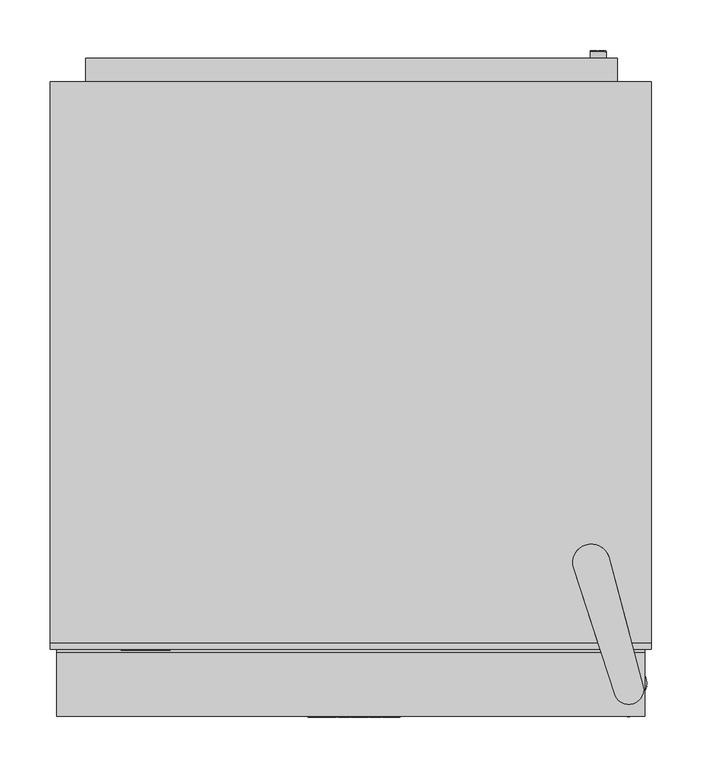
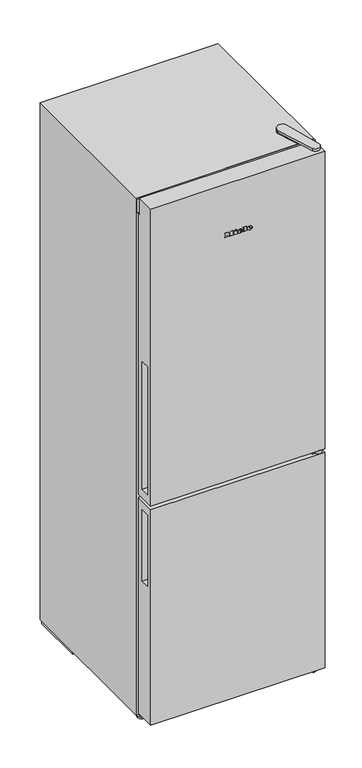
"""IFC4 building model written with IfcOpenShell, lengths in millimetres: proxy geometry, 11980390_EU1_KF4372CD_EL : 38437231_EU1_11980390_KF4372CD_EL."""

from ifc_helpers import new_model, si_unit, point, frame, frame_2d, origin, origin_with_axes, place, context, project, spatial, polyline, circle_curve, ellipse_curve, trimmed, segment, composite_curve, outline, extrude, faceted_brep, source, transform, mapped, element, save
from ifc_brep_helpers import plane_surface, cylinder_surface, revolved_surface, extruded_surface, advanced_brep


def specialty_equipment_6a8d7af3(model_context):
    return source(origin(), model_context, "Body", "SolidModel", [
        advanced_brep(
        [(38.73, -654.0, 1668.515), (38.73, -654.0, 1670.03), (48.765, -654.0, 1670.03), (31.305, -654.0, 1670.03), (35.43, -654.0, 1664.96), (48.51, -654.0, 1668.515), (43.98, -654.0, 1668.515), (40.41, -654.0, 1666.835), (38.73, -654.0, 1671.95), (38.73, -654.0, 1673.585), (41.295, -654.0, 1673.585), (41.295, -654.0, 1671.95), (38.73, -653.0, 1668.515), (40.41, -653.0, 1666.835), (43.98, -653.0, 1668.515), (48.51, -653.0, 1668.515), (35.43, -653.0, 1664.96), (31.305, -653.0, 1670.03), (48.765, -653.0, 1670.03), (38.73, -653.0, 1670.03), (38.73, -653.0, 1671.95), (41.295, -653.0, 1671.95), (41.295, -653.0, 1673.585), (38.73, -653.0, 1673.585)],
        [
            (0, 1),
            (1, 2),
            (2, 3, ellipse_curve(frame((40.035, -654.0, 1670.03), z_axis=(0.0, -1.0, 0.0), x_axis=(-1.0, 0.0, 0.0)), 8.73, 7.215)),
            (3, 4, circle_curve(frame((37.1100818, -654.0, 1670.54), z_axis=(0.0, -1.0, 0.0), x_axis=(0.0, 0.0, -1.0)), 5.8274415)),
            (4, 5, circle_curve(frame((39.860238, -654.0, 1674.5), z_axis=(0.0, -1.0, 0.0), x_axis=(0.0, 0.0, -1.0)), 10.5184889)),
            (5, 6),
            (6, 7, circle_curve(frame((41.1432353, -654.0, 1669.91), z_axis=(0.0, 1.0, 0.0), x_axis=(0.0, 0.0, -1.0)), 3.1612116)),
            (7, 0, circle_curve(frame((40.41, -654.0, 1668.515), z_axis=(0.0, 1.0, 0.0), x_axis=(0.0, 0.0, -1.0)), 1.68)),
            (8, 9),
            (9, 10, circle_curve(frame((40.0125, -654.0, 1673.585), z_axis=(0.0, 1.0, 0.0), x_axis=(0.0, 0.0, -1.0)), 1.2825)),
            (10, 11),
            (11, 8),
            (12, 13, circle_curve(frame((40.41, -653.0, 1668.515), z_axis=(0.0, -1.0, 0.0), x_axis=(0.0, 0.0, -1.0)), 1.68)),
            (13, 14, circle_curve(frame((41.1432353, -653.0, 1669.91), z_axis=(0.0, -1.0, 0.0), x_axis=(0.0, 0.0, -1.0)), 3.1612116)),
            (14, 15),
            (15, 16, circle_curve(frame((39.860238, -653.0, 1674.5), z_axis=(0.0, 1.0, 0.0), x_axis=(0.0, 0.0, -1.0)), 10.5184889)),
            (16, 17, circle_curve(frame((37.1100818, -653.0, 1670.54), z_axis=(0.0, 1.0, 0.0), x_axis=(0.0, 0.0, -1.0)), 5.8274415)),
            (17, 18, ellipse_curve(frame((40.035, -653.0, 1670.03), z_axis=(0.0, 1.0, 0.0), x_axis=(-1.0, 0.0, 0.0)), 8.73, 7.215)),
            (18, 19),
            (19, 12),
            (20, 21),
            (21, 22),
            (22, 23, circle_curve(frame((40.0125, -653.0, 1673.585), z_axis=(0.0, -1.0, 0.0), x_axis=(0.0, 0.0, -1.0)), 1.2825)),
            (23, 20),
            (0, 12),
            (19, 1),
            (18, 2),
            (5, 15),
            (14, 6),
            (17, 3),
            (13, 7),
            (16, 4),
            (8, 20),
            (23, 9),
            (22, 10),
            (21, 11),
        ],
        [
            plane_surface(frame((38.73, -654.0, 1670.03), z_axis=(0.0, -1.0, 0.0), x_axis=(0.0, 0.0, 1.0))),
            plane_surface(frame((38.73, -653.0, 1670.03), z_axis=(0.0, 1.0, 0.0), x_axis=(0.0, 0.0, -1.0))),
            plane_surface(frame((38.73, -654.0, 1668.515), z_axis=(1.0, 0.0, 0.0), x_axis=(0.0, 1.0, 0.0))),
            plane_surface(frame((38.73, -654.0, 1670.03), z_axis=(0.0, 0.0, -1.0), x_axis=(0.0, 1.0, 0.0))),
            plane_surface(frame((48.51, -654.0, 1668.515), z_axis=(0.0, 0.0, 1.0), x_axis=(0.0, 1.0, 0.0))),
            extruded_surface(trimmed(ellipse_curve(frame((40.035, -652.0, 1670.03), z_axis=(0.0, -1.0, 0.0), x_axis=(-1.0, 0.0, 0.0)), 8.73, 7.215), [point((48.765, -652.0, 1670.03))], [point((31.305, -652.0, 1670.03))], True, "CARTESIAN"), (0.0, -1.0, 0.0), 1.0),
            revolved_surface(polyline([(41.1432353, -653.0, 1666.7487884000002), (41.1432353, -654.0, 1666.7487884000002)]), (41.1432353, -653.0, 1669.91), (0.0, 1.0, 0.0)),
            revolved_surface(polyline([(40.41, -653.0, 1666.835), (40.41, -654.0, 1666.835)]), (40.41, -653.0, 1668.515), (0.0, 1.0, 0.0)),
            cylinder_surface(frame((37.1100818, -653.0, 1670.54), z_axis=(0.0, -1.0, 0.0), x_axis=(0.0, 0.0, -1.0)), 5.8274415),
            cylinder_surface(frame((39.860238, -653.0, 1674.5), z_axis=(0.0, -1.0, 0.0), x_axis=(0.0, 0.0, -1.0)), 10.5184889),
            plane_surface(frame((38.73, -654.0, 1671.95), z_axis=(1.0, 0.0, 0.0), x_axis=(0.0, 1.0, 0.0))),
            revolved_surface(polyline([(40.0125, -653.0, 1672.3025), (40.0125, -654.0, 1672.3025)]), (40.0125, -653.0, 1673.585), (0.0, 1.0, 0.0)),
            plane_surface(frame((41.295, -654.0, 1673.585), z_axis=(-1.0, 0.0, 0.0), x_axis=(0.0, 1.0, 0.0))),
            plane_surface(frame((41.295, -654.0, 1671.95), z_axis=(0.0, 0.0, 1.0), x_axis=(0.0, 1.0, 0.0))),
        ],
        [
            (0, [[1, 2, 3, 4, 5, 6, 7, 8], [9, 10, 11, 12]]),
            (1, [[13, 14, 15, 16, 17, 18, 19, 20], [21, 22, 23, 24]]),
            (2, [[-1, 25, -20, 26]]),
            (3, [[-2, -26, -19, 27]]),
            (4, [[-6, 28, -15, 29]]),
            (5, [[-3, -27, -18, 30]]),
            (6, [[-7, -29, -14, 31]]),
            (7, [[-8, -31, -13, -25]]),
            (8, [[-4, -30, -17, 32]]),
            (9, [[-5, -32, -16, -28]]),
            (10, [[-9, 33, -24, 34]]),
            (11, [[-10, -34, -23, 35]]),
            (12, [[-11, -35, -22, 36]]),
            (13, [[-12, -36, -21, -33]]),
        ],
    ),
        advanced_brep(
        [(7.425, -654.0, 1668.515), (7.425, -654.0, 1670.03), (17.46, -654.0, 1670.03), (0.0, -654.0, 1670.03), (4.125, -654.0, 1664.96), (17.205, -654.0, 1668.515), (12.675, -654.0, 1668.515), (9.105, -654.0, 1666.835), (7.425, -654.0, 1671.95), (7.425, -654.0, 1673.585), (9.99, -654.0, 1673.585), (9.99, -654.0, 1671.95), (7.425, -653.0, 1668.515), (9.105, -653.0, 1666.835), (12.675, -653.0, 1668.515), (17.205, -653.0, 1668.515), (4.125, -653.0, 1664.96), (0.0, -653.0, 1670.03), (17.46, -653.0, 1670.03), (7.425, -653.0, 1670.03), (7.425, -653.0, 1671.95), (9.99, -653.0, 1671.95), (9.99, -653.0, 1673.585), (7.425, -653.0, 1673.585)],
        [
            (0, 1),
            (1, 2),
            (2, 3, ellipse_curve(frame((8.73, -654.0, 1670.03), z_axis=(0.0, -1.0, 0.0), x_axis=(-1.0, 0.0, 0.0)), 8.73, 7.215)),
            (3, 4, circle_curve(frame((5.8050818, -654.0, 1670.54), z_axis=(0.0, -1.0, 0.0), x_axis=(0.0, 0.0, -1.0)), 5.8274415)),
            (4, 5, circle_curve(frame((8.555238, -654.0, 1674.5), z_axis=(0.0, -1.0, 0.0), x_axis=(0.0, 0.0, -1.0)), 10.5184889)),
            (5, 6),
            (6, 7, circle_curve(frame((9.8382353, -654.0, 1669.91), z_axis=(0.0, 1.0, 0.0), x_axis=(0.0, 0.0, -1.0)), 3.1612116)),
            (7, 0, circle_curve(frame((9.105, -654.0, 1668.515), z_axis=(0.0, 1.0, 0.0), x_axis=(0.0, 0.0, -1.0)), 1.68)),
            (8, 9),
            (9, 10, circle_curve(frame((8.7075, -654.0, 1673.585), z_axis=(0.0, 1.0, 0.0), x_axis=(0.0, 0.0, -1.0)), 1.2825)),
            (10, 11),
            (11, 8),
            (12, 13, circle_curve(frame((9.105, -653.0, 1668.515), z_axis=(0.0, -1.0, 0.0), x_axis=(0.0, 0.0, -1.0)), 1.68)),
            (13, 14, circle_curve(frame((9.8382353, -653.0, 1669.91), z_axis=(0.0, -1.0, 0.0), x_axis=(0.0, 0.0, -1.0)), 3.1612116)),
            (14, 15),
            (15, 16, circle_curve(frame((8.555238, -653.0, 1674.5), z_axis=(0.0, 1.0, 0.0), x_axis=(0.0, 0.0, -1.0)), 10.5184889)),
            (16, 17, circle_curve(frame((5.8050818, -653.0, 1670.54), z_axis=(0.0, 1.0, 0.0), x_axis=(0.0, 0.0, -1.0)), 5.8274415)),
            (17, 18, ellipse_curve(frame((8.73, -653.0, 1670.03), z_axis=(0.0, 1.0, 0.0), x_axis=(-1.0, 0.0, 0.0)), 8.73, 7.215)),
            (18, 19),
            (19, 12),
            (20, 21),
            (21, 22),
            (22, 23, circle_curve(frame((8.7075, -653.0, 1673.585), z_axis=(0.0, -1.0, 0.0), x_axis=(0.0, 0.0, -1.0)), 1.2825)),
            (23, 20),
            (0, 12),
            (19, 1),
            (18, 2),
            (5, 15),
            (14, 6),
            (17, 3),
            (13, 7),
            (16, 4),
            (8, 20),
            (23, 9),
            (22, 10),
            (21, 11),
        ],
        [
            plane_surface(frame((7.425, -654.0, 1670.03), z_axis=(0.0, -1.0, 0.0), x_axis=(0.0, 0.0, 1.0))),
            plane_surface(frame((7.425, -653.0, 1670.03), z_axis=(0.0, 1.0, 0.0), x_axis=(0.0, 0.0, -1.0))),
            plane_surface(frame((7.425, -654.0, 1668.515), z_axis=(1.0, 0.0, 0.0), x_axis=(0.0, 1.0, 0.0))),
            plane_surface(frame((7.425, -654.0, 1670.03), z_axis=(0.0, 0.0, -1.0), x_axis=(0.0, 1.0, 0.0))),
            plane_surface(frame((17.205, -654.0, 1668.515), z_axis=(0.0, 0.0, 1.0), x_axis=(0.0, 1.0, 0.0))),
            extruded_surface(trimmed(ellipse_curve(frame((8.73, -652.0, 1670.03), z_axis=(0.0, -1.0, 0.0), x_axis=(-1.0, 0.0, 0.0)), 8.73, 7.215), [point((17.46, -652.0, 1670.03))], [point((0.0, -652.0, 1670.03))], True, "CARTESIAN"), (0.0, -1.0, 0.0), 1.0),
            revolved_surface(polyline([(9.8382353, -653.0, 1666.7487884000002), (9.8382353, -654.0, 1666.7487884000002)]), (9.8382353, -653.0, 1669.91), (0.0, 1.0, 0.0)),
            revolved_surface(polyline([(9.105, -653.0, 1666.835), (9.105, -654.0, 1666.835)]), (9.105, -653.0, 1668.515), (0.0, 1.0, 0.0)),
            cylinder_surface(frame((5.8050818, -653.0, 1670.54), z_axis=(0.0, -1.0, 0.0), x_axis=(0.0, 0.0, -1.0)), 5.8274415),
            cylinder_surface(frame((8.555238, -653.0, 1674.5), z_axis=(0.0, -1.0, 0.0), x_axis=(0.0, 0.0, -1.0)), 10.5184889),
            plane_surface(frame((7.425, -654.0, 1671.95), z_axis=(1.0, 0.0, 0.0), x_axis=(0.0, 1.0, 0.0))),
            revolved_surface(polyline([(8.7075, -653.0, 1672.3025), (8.7075, -654.0, 1672.3025)]), (8.7075, -653.0, 1673.585), (0.0, 1.0, 0.0)),
            plane_surface(frame((9.99, -654.0, 1673.585), z_axis=(-1.0, 0.0, 0.0), x_axis=(0.0, 1.0, 0.0))),
            plane_surface(frame((9.99, -654.0, 1671.95), z_axis=(0.0, 0.0, 1.0), x_axis=(0.0, 1.0, 0.0))),
        ],
        [
            (0, [[1, 2, 3, 4, 5, 6, 7, 8], [9, 10, 11, 12]]),
            (1, [[13, 14, 15, 16, 17, 18, 19, 20], [21, 22, 23, 24]]),
            (2, [[-1, 25, -20, 26]]),
            (3, [[-2, -26, -19, 27]]),
            (4, [[-6, 28, -15, 29]]),
            (5, [[-3, -27, -18, 30]]),
            (6, [[-7, -29, -14, 31]]),
            (7, [[-8, -31, -13, -25]]),
            (8, [[-4, -30, -17, 32]]),
            (9, [[-5, -32, -16, -28]]),
            (10, [[-9, 33, -24, 34]]),
            (11, [[-10, -34, -23, 35]]),
            (12, [[-11, -35, -22, 36]]),
            (13, [[-12, -36, -21, -33]]),
        ],
    ),
        extrude(outline(polyline([(1679.075, -8.97), (1676.645, -7.83), (1679.015, -2.745), (1681.445, -3.87), (1679.075, -8.97)])), frame((0.0, -654.0, 0.0), z_axis=(0.0, 1.0, 0.0), x_axis=(0.0, 0.0, 1.0)), (0.0, 0.0, 1.0), 1.0),
        extrude(outline(polyline([(1676.315, -12.675), (1673.63, -12.675), (1673.63, -10.89), (1667.48, -10.89), (1667.48, -12.675), (1664.96, -12.675), (1664.96, -0.84), (1667.48, -0.84), (1667.48, -2.58), (1676.315, -2.58), (1676.315, -12.675)])), frame((0.0, -654.0, 0.0), z_axis=(0.0, 1.0, 0.0), x_axis=(0.0, 0.0, 1.0)), (0.0, 0.0, 1.0), 1.0),
        extrude(outline(polyline([(1677.515, 18.3), (1677.515, 20.1), (1667.48, 20.1), (1667.48, 18.3), (1664.96, 18.3), (1664.96, 30.465), (1667.48, 30.465), (1667.48, 28.62), (1679.96, 28.62), (1679.96, 18.3), (1677.515, 18.3)])), frame((0.0, -654.0, 0.0), z_axis=(0.0, 1.0, 0.0), x_axis=(0.0, 0.0, 1.0)), (0.0, 0.0, 1.0), 1.0),
        extrude(outline(polyline([(1677.515, -42.57), (1677.515, -40.755), (1667.48, -40.755), (1667.48, -42.57), (1664.96, -42.57), (1664.96, -35.97), (1667.48, -35.97), (1667.48, -37.77), (1673.8161247, -37.77), (1664.96, -31.065), (1674.1502223, -24.33), (1667.48, -24.33), (1667.48, -26.175), (1664.96, -26.175), (1664.96, -14.205), (1667.48, -14.205), (1667.48, -16.11), (1677.515, -16.11), (1677.515, -14.205), (1679.96, -14.205), (1679.96, -23.34), (1674.335, -27.72), (1679.96, -32.115), (1679.96, -42.57), (1677.515, -42.57)])), frame((0.0, -654.0, 0.0), z_axis=(0.0, 1.0, 0.0), x_axis=(0.0, 0.0, 1.0)), (0.0, 0.0, 1.0), 1.0),
        faceted_brep([(298.5, -23.0, 1850.0), (-298.5, -23.0, 1850.0), (-298.5, -580.0, 1850.0), (298.5, -580.0, 1850.0), (298.5, -23.0, 19.0), (298.5, -580.0, 19.0), (-298.5, -580.0, 19.0), (-298.5, -23.0, 19.0), (-234.0, -580.0, 1766.0), (234.0, -580.0, 1766.0), (234.0, -580.0, 827.0), (-234.0, -580.0, 827.0), (-234.0, -580.0, 733.0), (234.0, -580.0, 733.0), (234.0, -580.0, 109.0), (-234.0, -580.0, 109.0), (-234.0, -63.0, 1766.0), (234.0, -63.0, 1766.0), (234.0, -63.0, 827.0), (-234.0, -63.0, 827.0), (-234.0, -63.0, 733.0), (234.0, -63.0, 733.0), (234.0, -63.0, 109.0), (-234.0, -63.0, 109.0)], [[[0, 1, 2, 3]], [[4, 5, 6, 7]], [[1, 0, 4, 7]], [[2, 1, 7, 6]], [[3, 2, 6, 5], [8, 9, 10, 11], [12, 13, 14, 15]], [[0, 3, 5, 4]], [[16, 17, 9, 8]], [[18, 19, 11, 10]], [[17, 16, 19, 18]], [[19, 16, 8, 11]], [[17, 18, 10, 9]], [[20, 21, 13, 12]], [[22, 23, 15, 14]], [[21, 20, 23, 22]], [[23, 20, 12, 15]], [[21, 22, 14, 13]]]),
        extrude(outline(composite_curve([segment(polyline([(-56.420729, 6.1484915), (-39.9901847, 6.1484915)]), True, "CONTINUOUS"), segment(trimmed(circle_curve(frame_2d((-48.2054569, 8.6902384)), 8.5994869), [point((-39.9901847, 6.1484915))], [point((-56.420729, 6.1484915))], False, "CARTESIAN"), True, "CONTINUOUS")], self_intersect=False)), frame((264.4820102, 0.0, 0.0), z_axis=(1.0, 0.0, 0.0), x_axis=(0.0, 1.0, 0.0)), (0.0, 0.0, 1.0), 17.0656722),
        extrude(outline(composite_curve([segment(trimmed(circle_curve(frame_2d((-274.5, -569.6105025)), 7.4374754), [point((-281.9374754, -569.6105025))], [point((-267.0625246, -569.6105025))], False, "CARTESIAN"), True, "CONTINUOUS"), segment(trimmed(circle_curve(frame_2d((-274.5, -569.6105025)), 7.4374754), [point((-267.0625246, -569.6105025))], [point((-281.9374754, -569.6105025))], False, "CARTESIAN"), True, "CONTINUOUS")], self_intersect=False)), frame((0.0, 0.0, 6.1484915), z_axis=(0.0, 0.0, 1.0), x_axis=(1.0, 0.0, 0.0)), (0.0, 0.0, 1.0), 12.8515085),
        extrude(outline(composite_curve([segment(trimmed(circle_curve(frame_2d((-274.5, -569.7060517)), 12.797253), [point((-287.297253, -569.7060517))], [point((-261.702747, -569.7060517))], False, "CARTESIAN"), True, "CONTINUOUS"), segment(trimmed(circle_curve(frame_2d((-274.5, -569.7060517)), 12.797253), [point((-261.702747, -569.7060517))], [point((-287.297253, -569.7060517))], False, "CARTESIAN"), True, "CONTINUOUS")], self_intersect=False)), origin_with_axes(), (0.0, 0.0, 1.0), 6.1484915),
        extrude(outline(polyline([(298.5, -586.4996489), (-298.5, -586.4996489), (-298.5, -580.0), (298.5, -580.0), (298.5, -586.4996489)])), frame((0.0, 0.0, 1801.2229618), z_axis=(0.0, 0.0, 1.0), x_axis=(1.0, 0.0, 0.0)), (0.0, 0.0, 1.0), 48.7770382),
        extrude(outline(polyline([(277.7112582, -200.120515), (251.0987637, -200.120515), (251.0987637, -87.2190022), (277.7112582, -87.2190022), (277.7112582, -200.120515)])), origin_with_axes(), (0.0, 0.0, 1.0), 6.1484915),
        extrude(outline(polyline([(251.0987637, -26.8205259), (291.0987637, -26.8205259), (291.0987637, -206.6206354), (251.0987637, -206.6206354), (251.0987637, -26.8205259)])), frame((0.0, 0.0, 6.1484915), z_axis=(0.0, 0.0, 1.0), x_axis=(1.0, 0.0, 0.0)), (0.0, 0.0, 1.0), 12.8515085),
        extrude(outline(composite_curve([segment(polyline([(-56.420729, 6.1484915), (-39.9901847, 6.1484915)]), True, "CONTINUOUS"), segment(trimmed(circle_curve(frame_2d((-48.2054569, 8.6902384)), 8.5994869), [point((-39.9901847, 6.1484915))], [point((-56.420729, 6.1484915))], False, "CARTESIAN"), True, "CONTINUOUS")], self_intersect=False)), frame((-281.5476824, 0.0, 0.0), z_axis=(1.0, 0.0, 0.0), x_axis=(0.0, 1.0, 0.0)), (0.0, 0.0, 1.0), 17.0656722),
        extrude(outline(polyline([(-277.7112582, -200.120515), (-277.7112582, -87.2190022), (-252.7112582, -87.2190022), (-252.7112582, -200.120515), (-277.7112582, -200.120515)])), origin_with_axes(), (0.0, 0.0, 1.0), 6.1484915),
        extrude(outline(polyline([(-252.7112582, -26.8205259), (-252.7112582, -206.6206354), (-295.0984336, -206.6206354), (-295.0984336, -26.8205259), (-252.7112582, -26.8205259)])), frame((0.0, 0.0, 6.1484915), z_axis=(0.0, 0.0, 1.0), x_axis=(1.0, 0.0, 0.0)), (0.0, 0.0, 1.0), 12.8515085),
        extrude(outline(polyline([(244.9015664, -32.3201), (244.9015664, -206.6206354), (-245.4999985, -206.6206354), (-245.4999985, -32.3201), (244.9015664, -32.3201)])), frame((0.0, 0.0, 6.1484915), z_axis=(0.0, 0.0, 1.0), x_axis=(1.0, 0.0, 0.0)), (0.0, 0.0, 1.0), 12.8515085),
        extrude(outline(polyline([(264.8461624, -23.0), (-263.5, -23.0), (-263.5, 0.0), (264.8461624, 0.0), (264.8461624, -23.0)])), frame((0.0, 0.0, 231.5932438), z_axis=(0.0, 0.0, 1.0), x_axis=(1.0, 0.0, 0.0)), (0.0, 0.0, 1.0), 1494.4067562),
        extrude(outline(polyline([(168.0, 253.3772603), (178.045631, 253.3772603), (178.045631, 246.156963), (176.7899271, 246.156963), (176.7899271, 252.1215564), (173.8076304, 252.1215564), (173.8076304, 246.470889), (172.5519266, 246.470889), (172.5519266, 252.1215564), (169.2557039, 252.1215564), (169.2557039, 246.0), (168.0, 246.0), (168.0, 253.3772603)])), frame((0.0, 7.0, 0.0), z_axis=(0.0, 1.0, 0.0), x_axis=(0.0, 0.0, 1.0)), (0.0, 0.0, 1.0), 1.0),
        extrude(outline(polyline([(168.0, 244.1164442), (178.045631, 244.1164442), (178.045631, 242.8607403), (169.2557039, 242.8607403), (169.2557039, 237.8379248), (168.0, 237.8379248), (168.0, 244.1164442)])), frame((0.0, 7.0, 0.0), z_axis=(0.0, 1.0, 0.0), x_axis=(0.0, 0.0, 1.0)), (0.0, 0.0, 1.0), 1.0),
        extrude(outline(composite_curve([segment(trimmed(circle_curve(frame_2d((173.0, 246.0)), 8.0), [point((173.0, 238.0))], [point((173.0, 254.0))], False, "CARTESIAN"), True, "CONTINUOUS"), segment(trimmed(circle_curve(frame_2d((173.0, 246.0)), 8.0), [point((173.0, 254.0))], [point((173.0, 238.0))], False, "CARTESIAN"), True, "CONTINUOUS")], self_intersect=False)), frame((0.0, -23.0, 0.0), z_axis=(0.0, 1.0, 0.0), x_axis=(0.0, 0.0, 1.0)), (0.0, 0.0, 1.0), 30.0),
        extrude(outline(polyline([(255.1369404, -644.0500518), (255.1369404, -589.0), (292.0, -589.0), (292.0, -629.2312633), (263.6572781, -629.2312633), (263.6572781, -644.0500518), (255.1369404, -644.0500518)])), frame((0.0, 0.0, 788.0), z_axis=(0.0, 0.0, 1.0), x_axis=(1.0, 0.0, 0.0)), (0.0, 0.0, 1.0), 11.7998428),
        extrude(outline(composite_curve([segment(trimmed(circle_curve(frame_2d((276.0, -641.3479469)), 12.0), [point((264.0, -641.3479469))], [point((288.0, -641.3479469))], False, "CARTESIAN"), True, "CONTINUOUS"), segment(trimmed(circle_curve(frame_2d((276.0, -641.3479469)), 12.0), [point((288.0, -641.3479469))], [point((264.0, -641.3479469))], False, "CARTESIAN"), True, "CONTINUOUS")], self_intersect=False)), frame((0.0, 0.0, 788.0), z_axis=(0.0, 0.0, 1.0), x_axis=(1.0, 0.0, 0.0)), (0.0, 0.0, 1.0), 11.7998428),
        faceted_brep([(292.0, -653.0, 788.0), (-292.0, -653.0, 788.0), (-292.0, -653.0, 24.0), (292.0, -653.0, 24.0), (292.0, -580.0, 788.0), (292.0, -580.0, 24.0), (-292.0, -580.0, 24.0), (-292.0, -580.0, 788.0), (-292.0, -635.0, 758.0), (-292.0, -635.0, 506.0121804), (-292.0, -604.4897883, 506.0121804), (-292.0, -604.4897883, 758.0), (-268.2740132, -635.0, 758.0), (-268.2740132, -604.4897883, 758.0), (-268.2740132, -604.4897883, 506.0121804), (-268.2740132, -635.0, 506.0121804)], [[[0, 1, 2, 3]], [[4, 5, 6, 7]], [[1, 0, 4, 7]], [[2, 1, 7, 6], [8, 9, 10, 11]], [[3, 2, 6, 5]], [[0, 3, 5, 4]], [[12, 13, 14, 15]], [[12, 15, 9, 8]], [[15, 14, 10, 9]], [[14, 13, 11, 10]], [[13, 12, 8, 11]]]),
        extrude(outline(composite_curve([segment(trimmed(circle_curve(frame_2d((255.0, -586.0)), 13.0), [point((242.0, -586.0))], [point((268.0, -586.0))], False, "CARTESIAN"), True, "CONTINUOUS"), segment(trimmed(circle_curve(frame_2d((255.0, -586.0)), 13.0), [point((268.0, -586.0))], [point((242.0, -586.0))], False, "CARTESIAN"), True, "CONTINUOUS")], self_intersect=False)), origin_with_axes(), (0.0, 0.0, 1.0), 6.9998158),
        extrude(outline(composite_curve([segment(trimmed(circle_curve(frame_2d((276.9946442, -619.9124361)), 17.0), [point((259.9946442, -619.9124361))], [point((293.9946442, -619.9124361))], False, "CARTESIAN"), True, "CONTINUOUS"), segment(trimmed(circle_curve(frame_2d((276.9946442, -619.9124361)), 17.0), [point((293.9946442, -619.9124361))], [point((259.9946442, -619.9124361))], False, "CARTESIAN"), True, "CONTINUOUS")], self_intersect=False)), frame((0.0, 0.0, 18.8964761), z_axis=(0.0, 0.0, 1.0), x_axis=(1.0, 0.0, 0.0)), (0.0, 0.0, 1.0), 5.1035239),
        extrude(outline(polyline([(294.0677389, -623.5579978), (264.4272141, -637.8371511), (205.1568838, -531.0918017), (240.1598028, -511.6564392), (294.0677389, -623.5579978)])), frame((0.0, 0.0, 6.9998158), z_axis=(0.0, 0.0, 1.0), x_axis=(1.0, 0.0, 0.0)), (0.0, 0.0, 1.0), 11.8966603),
        extrude(outline(composite_curve([segment(polyline([(276.4367298, -571.0430426), (245.1616399, -579.2864892), (221.3582255, -506.2033511)]), True, "CONTINUOUS"), segment(trimmed(circle_curve(frame_2d((238.85062, -500.5060216)), 18.3968321), [point((221.3582255, -506.2033511))], [point((256.3428386, -494.8081519))], False, "CARTESIAN"), True, "CONTINUOUS"), segment(polyline([(256.3428386, -494.8081519), (276.4367298, -571.0430426)]), True, "CONTINUOUS")], self_intersect=False)), frame((0.0, 0.0, 1849.9998428), z_axis=(0.0, 0.0, 1.0), x_axis=(1.0, 0.0, 0.0)), (0.0, 0.0, 1.0), 2.8),
        extrude(outline(composite_curve([segment(polyline([(262.5128912, -632.5530567), (221.3582255, -506.2033511)]), True, "CONTINUOUS"), segment(trimmed(circle_curve(frame_2d((238.850532, -500.5057515)), 18.3968321), [point((221.3582255, -506.2033511))], [point((256.3428386, -494.8081519))], False, "CARTESIAN"), True, "CONTINUOUS"), segment(polyline([(256.3428386, -494.8081519), (291.0205136, -626.3729512)]), True, "CONTINUOUS"), segment(trimmed(circle_curve(frame_2d((276.0339956, -626.0831703)), 14.9893193), [point((291.0205136, -626.3729512))], [point((262.5128912, -632.5530567))], False, "CARTESIAN"), True, "CONTINUOUS")], self_intersect=False)), frame((0.0, 0.0, 1852.7998428), z_axis=(0.0, 0.0, 1.0), x_axis=(1.0, 0.0, 0.0)), (0.0, 0.0, 1.0), 9.2001572),
        extrude(outline(polyline([(292.0, -589.0), (162.9885295, -589.0), (162.9885295, -580.0), (292.0, -580.0), (292.0, -589.0)])), frame((0.0, 0.0, 788.0), z_axis=(0.0, 0.0, 1.0), x_axis=(1.0, 0.0, 0.0)), (0.0, 0.0, 1.0), 11.7998428),
        faceted_brep([(292.0, -653.0, 1852.7998428), (-292.0, -653.0, 1852.7998428), (-292.0, -653.0, 799.7998428), (292.0, -653.0, 799.7998428), (292.0, -580.0, 799.7998428), (-292.0, -580.0, 799.7998428), (-292.0, -580.0, 1796.7998428), (292.0, -580.0, 1796.7998428), (292.0, -589.8392038, 1852.7998428), (-292.0, -589.8392038, 1852.7998428), (-292.0, -589.8392038, 1796.7998428), (-292.0, -604.4876108, 831.0997411), (-292.0, -604.4876108, 1283.0), (-292.0, -635.0, 1283.0), (-292.0, -635.0, 831.0997411), (292.0, -589.8392038, 1796.7998428), (-268.2740132, -604.4876108, 831.0997411), (-268.2740132, -635.0, 831.0997411), (-268.2740132, -635.0, 1283.0), (-268.2740132, -604.4876108, 1283.0)], [[[0, 1, 2, 3]], [[4, 5, 6, 7]], [[1, 0, 8, 9]], [[2, 1, 9, 10, 6, 5], [11, 12, 13, 14]], [[3, 2, 5, 4]], [[0, 3, 4, 7, 15, 8]], [[15, 10, 9, 8]], [[10, 15, 7, 6]], [[16, 17, 18, 19]], [[16, 19, 12, 11]], [[19, 18, 13, 12]], [[18, 17, 14, 13]], [[17, 16, 11, 14]]]),
        advanced_brep(
        [(-184.64, -587.4996489, 1823.3934838), (-184.64, -587.4996489, 1824.2014838), (-179.288, -587.4996489, 1824.2014838), (-188.6, -587.4996489, 1824.2014838), (-186.4, -587.4996489, 1821.4974838), (-179.424, -587.4996489, 1823.3934838), (-181.84, -587.4996489, 1823.3934838), (-183.744, -587.4996489, 1822.4974838), (-184.64, -587.4996489, 1825.2254838), (-184.64, -587.4996489, 1826.0974838), (-183.272, -587.4996489, 1826.0974838), (-183.272, -587.4996489, 1825.2254838), (-184.64, -586.4996489, 1823.3934838), (-183.744, -586.4996489, 1822.4974838), (-181.84, -586.4996489, 1823.3934838), (-179.424, -586.4996489, 1823.3934838), (-186.4, -586.4996489, 1821.4974838), (-188.6, -586.4996489, 1824.2014838), (-179.288, -586.4996489, 1824.2014838), (-184.64, -586.4996489, 1824.2014838), (-184.64, -586.4996489, 1825.2254838), (-183.272, -586.4996489, 1825.2254838), (-183.272, -586.4996489, 1826.0974838), (-184.64, -586.4996489, 1826.0974838)],
        [
            (0, 1),
            (1, 2),
            (2, 3, ellipse_curve(frame((-183.944, -587.4996489, 1824.2014838), z_axis=(0.0, -1.0, 0.0), x_axis=(-1.0, 0.0, 0.0)), 4.656, 3.848)),
            (3, 4, circle_curve(frame((-185.5039564, -587.4996489, 1824.4734838), z_axis=(0.0, -1.0, 0.0), x_axis=(0.0, 0.0, -1.0)), 3.1079688)),
            (4, 5, circle_curve(frame((-184.0372064, -587.4996489, 1826.5854838), z_axis=(0.0, -1.0, 0.0), x_axis=(0.0, 0.0, -1.0)), 5.6098607)),
            (5, 6),
            (6, 7, circle_curve(frame((-183.3529412, -587.4996489, 1824.1374838), z_axis=(0.0, 1.0, 0.0), x_axis=(0.0, 0.0, -1.0)), 1.6859795)),
            (7, 0, circle_curve(frame((-183.744, -587.4996489, 1823.3934838), z_axis=(0.0, 1.0, 0.0), x_axis=(0.0, 0.0, -1.0)), 0.896)),
            (8, 9),
            (9, 10, circle_curve(frame((-183.956, -587.4996489, 1826.0974838), z_axis=(0.0, 1.0, 0.0), x_axis=(0.0, 0.0, -1.0)), 0.684)),
            (10, 11),
            (11, 8),
            (12, 13, circle_curve(frame((-183.744, -586.4996489, 1823.3934838), z_axis=(0.0, -1.0, 0.0), x_axis=(0.0, 0.0, -1.0)), 0.896)),
            (13, 14, circle_curve(frame((-183.3529412, -586.4996489, 1824.1374838), z_axis=(0.0, -1.0, 0.0), x_axis=(0.0, 0.0, -1.0)), 1.6859795)),
            (14, 15),
            (15, 16, circle_curve(frame((-184.0372064, -586.4996489, 1826.5854838), z_axis=(0.0, 1.0, 0.0), x_axis=(0.0, 0.0, -1.0)), 5.6098607)),
            (16, 17, circle_curve(frame((-185.5039564, -586.4996489, 1824.4734838), z_axis=(0.0, 1.0, 0.0), x_axis=(0.0, 0.0, -1.0)), 3.1079688)),
            (17, 18, ellipse_curve(frame((-183.944, -586.4996489, 1824.2014838), z_axis=(0.0, 1.0, 0.0), x_axis=(-1.0, 0.0, 0.0)), 4.656, 3.848)),
            (18, 19),
            (19, 12),
            (20, 21),
            (21, 22),
            (22, 23, circle_curve(frame((-183.956, -586.4996489, 1826.0974838), z_axis=(0.0, -1.0, 0.0), x_axis=(0.0, 0.0, -1.0)), 0.684)),
            (23, 20),
            (0, 12),
            (19, 1),
            (18, 2),
            (5, 15),
            (14, 6),
            (17, 3),
            (13, 7),
            (16, 4),
            (8, 20),
            (23, 9),
            (22, 10),
            (21, 11),
        ],
        [
            plane_surface(frame((-184.64, -587.4996489, 1824.2014838), z_axis=(0.0, -1.0, 0.0), x_axis=(0.0, 0.0, 1.0))),
            plane_surface(frame((-184.64, -586.4996489, 1824.2014838), z_axis=(0.0, 1.0, 0.0), x_axis=(0.0, 0.0, -1.0))),
            plane_surface(frame((-184.64, -587.4996489, 1823.3934838), z_axis=(1.0, 0.0, 0.0), x_axis=(0.0, 1.0, 0.0))),
            plane_surface(frame((-184.64, -587.4996489, 1824.2014838), z_axis=(0.0, 0.0, -1.0), x_axis=(0.0, 1.0, 0.0))),
            plane_surface(frame((-179.424, -587.4996489, 1823.3934838), z_axis=(0.0, 0.0, 1.0), x_axis=(0.0, 1.0, 0.0))),
            extruded_surface(trimmed(ellipse_curve(frame((-183.944, -585.4996489, 1824.2014838), z_axis=(0.0, -1.0, 0.0), x_axis=(-1.0, 0.0, 0.0)), 4.656, 3.848), [point((-179.288, -585.4996489, 1824.2014838))], [point((-188.6, -585.4996489, 1824.2014838))], True, "CARTESIAN"), (0.0, -1.0, 0.0), 1.0),
            revolved_surface(polyline([(-183.3529412, -586.4996489, 1822.4515043), (-183.3529412, -587.4996489, 1822.4515043)]), (-183.3529412, -586.4996489, 1824.1374838), (0.0, 1.0, 0.0)),
            revolved_surface(polyline([(-183.744, -586.4996489, 1822.4974838), (-183.744, -587.4996489, 1822.4974838)]), (-183.744, -586.4996489, 1823.3934838), (0.0, 1.0, 0.0)),
            cylinder_surface(frame((-185.5039564, -586.4996489, 1824.4734838), z_axis=(0.0, -1.0, 0.0), x_axis=(0.0, 0.0, -1.0)), 3.1079688),
            cylinder_surface(frame((-184.0372064, -586.4996489, 1826.5854838), z_axis=(0.0, -1.0, 0.0), x_axis=(0.0, 0.0, -1.0)), 5.6098607),
            plane_surface(frame((-184.64, -587.4996489, 1825.2254838), z_axis=(1.0, 0.0, 0.0), x_axis=(0.0, 1.0, 0.0))),
            revolved_surface(polyline([(-183.956, -586.4996489, 1825.4134838), (-183.956, -587.4996489, 1825.4134838)]), (-183.956, -586.4996489, 1826.0974838), (0.0, 1.0, 0.0)),
            plane_surface(frame((-183.272, -587.4996489, 1826.0974838), z_axis=(-1.0, 0.0, 0.0), x_axis=(0.0, 1.0, 0.0))),
            plane_surface(frame((-183.272, -587.4996489, 1825.2254838), z_axis=(0.0, 0.0, 1.0), x_axis=(0.0, 1.0, 0.0))),
        ],
        [
            (0, [[1, 2, 3, 4, 5, 6, 7, 8], [9, 10, 11, 12]]),
            (1, [[13, 14, 15, 16, 17, 18, 19, 20], [21, 22, 23, 24]]),
            (2, [[-1, 25, -20, 26]]),
            (3, [[-2, -26, -19, 27]]),
            (4, [[-6, 28, -15, 29]]),
            (5, [[-3, -27, -18, 30]]),
            (6, [[-7, -29, -14, 31]]),
            (7, [[-8, -31, -13, -25]]),
            (8, [[-4, -30, -17, 32]]),
            (9, [[-5, -32, -16, -28]]),
            (10, [[-9, 33, -24, 34]]),
            (11, [[-10, -34, -23, 35]]),
            (12, [[-11, -35, -22, 36]]),
            (13, [[-12, -36, -21, -33]]),
        ],
    ),
        advanced_brep(
        [(-201.336, -587.4996489, 1823.3934838), (-201.336, -587.4996489, 1824.2014838), (-195.984, -587.4996489, 1824.2014838), (-205.296, -587.4996489, 1824.2014838), (-203.096, -587.4996489, 1821.4974838), (-196.12, -587.4996489, 1823.3934838), (-198.536, -587.4996489, 1823.3934838), (-200.44, -587.4996489, 1822.4974838), (-201.336, -587.4996489, 1825.2254838), (-201.336, -587.4996489, 1826.0974838), (-199.968, -587.4996489, 1826.0974838), (-199.968, -587.4996489, 1825.2254838), (-201.336, -586.4996489, 1823.3934838), (-200.44, -586.4996489, 1822.4974838), (-198.536, -586.4996489, 1823.3934838), (-196.12, -586.4996489, 1823.3934838), (-203.096, -586.4996489, 1821.4974838), (-205.296, -586.4996489, 1824.2014838), (-195.984, -586.4996489, 1824.2014838), (-201.336, -586.4996489, 1824.2014838), (-201.336, -586.4996489, 1825.2254838), (-199.968, -586.4996489, 1825.2254838), (-199.968, -586.4996489, 1826.0974838), (-201.336, -586.4996489, 1826.0974838)],
        [
            (0, 1),
            (1, 2),
            (2, 3, ellipse_curve(frame((-200.64, -587.4996489, 1824.2014838), z_axis=(0.0, -1.0, 0.0), x_axis=(-1.0, 0.0, 0.0)), 4.656, 3.848)),
            (3, 4, circle_curve(frame((-202.1999564, -587.4996489, 1824.4734838), z_axis=(0.0, -1.0, 0.0), x_axis=(0.0, 0.0, -1.0)), 3.1079688)),
            (4, 5, circle_curve(frame((-200.7332064, -587.4996489, 1826.5854838), z_axis=(0.0, -1.0, 0.0), x_axis=(0.0, 0.0, -1.0)), 5.6098607)),
            (5, 6),
            (6, 7, circle_curve(frame((-200.0489412, -587.4996489, 1824.1374838), z_axis=(0.0, 1.0, 0.0), x_axis=(0.0, 0.0, -1.0)), 1.6859795)),
            (7, 0, circle_curve(frame((-200.44, -587.4996489, 1823.3934838), z_axis=(0.0, 1.0, 0.0), x_axis=(0.0, 0.0, -1.0)), 0.896)),
            (8, 9),
            (9, 10, circle_curve(frame((-200.652, -587.4996489, 1826.0974838), z_axis=(0.0, 1.0, 0.0), x_axis=(0.0, 0.0, -1.0)), 0.684)),
            (10, 11),
            (11, 8),
            (12, 13, circle_curve(frame((-200.44, -586.4996489, 1823.3934838), z_axis=(0.0, -1.0, 0.0), x_axis=(0.0, 0.0, -1.0)), 0.896)),
            (13, 14, circle_curve(frame((-200.0489412, -586.4996489, 1824.1374838), z_axis=(0.0, -1.0, 0.0), x_axis=(0.0, 0.0, -1.0)), 1.6859795)),
            (14, 15),
            (15, 16, circle_curve(frame((-200.7332064, -586.4996489, 1826.5854838), z_axis=(0.0, 1.0, 0.0), x_axis=(0.0, 0.0, -1.0)), 5.6098607)),
            (16, 17, circle_curve(frame((-202.1999564, -586.4996489, 1824.4734838), z_axis=(0.0, 1.0, 0.0), x_axis=(0.0, 0.0, -1.0)), 3.1079688)),
            (17, 18, ellipse_curve(frame((-200.64, -586.4996489, 1824.2014838), z_axis=(0.0, 1.0, 0.0), x_axis=(-1.0, 0.0, 0.0)), 4.656, 3.848)),
            (18, 19),
            (19, 12),
            (20, 21),
            (21, 22),
            (22, 23, circle_curve(frame((-200.652, -586.4996489, 1826.0974838), z_axis=(0.0, -1.0, 0.0), x_axis=(0.0, 0.0, -1.0)), 0.684)),
            (23, 20),
            (0, 12),
            (19, 1),
            (18, 2),
            (5, 15),
            (14, 6),
            (17, 3),
            (13, 7),
            (16, 4),
            (8, 20),
            (23, 9),
            (22, 10),
            (21, 11),
        ],
        [
            plane_surface(frame((-201.336, -587.4996489, 1824.2014838), z_axis=(0.0, -1.0, 0.0), x_axis=(0.0, 0.0, 1.0))),
            plane_surface(frame((-201.336, -586.4996489, 1824.2014838), z_axis=(0.0, 1.0, 0.0), x_axis=(0.0, 0.0, -1.0))),
            plane_surface(frame((-201.336, -587.4996489, 1823.3934838), z_axis=(1.0, 0.0, 0.0), x_axis=(0.0, 1.0, 0.0))),
            plane_surface(frame((-201.336, -587.4996489, 1824.2014838), z_axis=(0.0, 0.0, -1.0), x_axis=(0.0, 1.0, 0.0))),
            plane_surface(frame((-196.12, -587.4996489, 1823.3934838), z_axis=(0.0, 0.0, 1.0), x_axis=(0.0, 1.0, 0.0))),
            extruded_surface(trimmed(ellipse_curve(frame((-200.64, -585.4996489, 1824.2014838), z_axis=(0.0, -1.0, 0.0), x_axis=(-1.0, 0.0, 0.0)), 4.656, 3.848), [point((-195.984, -585.4996489, 1824.2014838))], [point((-205.296, -585.4996489, 1824.2014838))], True, "CARTESIAN"), (0.0, -1.0, 0.0), 1.0),
            revolved_surface(polyline([(-200.0489412, -586.4996489, 1822.4515043), (-200.0489412, -587.4996489, 1822.4515043)]), (-200.0489412, -586.4996489, 1824.1374838), (0.0, 1.0, 0.0)),
            revolved_surface(polyline([(-200.44, -586.4996489, 1822.4974838), (-200.44, -587.4996489, 1822.4974838)]), (-200.44, -586.4996489, 1823.3934838), (0.0, 1.0, 0.0)),
            cylinder_surface(frame((-202.1999564, -586.4996489, 1824.4734838), z_axis=(0.0, -1.0, 0.0), x_axis=(0.0, 0.0, -1.0)), 3.1079688),
            cylinder_surface(frame((-200.7332064, -586.4996489, 1826.5854838), z_axis=(0.0, -1.0, 0.0), x_axis=(0.0, 0.0, -1.0)), 5.6098607),
            plane_surface(frame((-201.336, -587.4996489, 1825.2254838), z_axis=(1.0, 0.0, 0.0), x_axis=(0.0, 1.0, 0.0))),
            revolved_surface(polyline([(-200.652, -586.4996489, 1825.4134838), (-200.652, -587.4996489, 1825.4134838)]), (-200.652, -586.4996489, 1826.0974838), (0.0, 1.0, 0.0)),
            plane_surface(frame((-199.968, -587.4996489, 1826.0974838), z_axis=(-1.0, 0.0, 0.0), x_axis=(0.0, 1.0, 0.0))),
            plane_surface(frame((-199.968, -587.4996489, 1825.2254838), z_axis=(0.0, 0.0, 1.0), x_axis=(0.0, 1.0, 0.0))),
        ],
        [
            (0, [[1, 2, 3, 4, 5, 6, 7, 8], [9, 10, 11, 12]]),
            (1, [[13, 14, 15, 16, 17, 18, 19, 20], [21, 22, 23, 24]]),
            (2, [[-1, 25, -20, 26]]),
            (3, [[-2, -26, -19, 27]]),
            (4, [[-6, 28, -15, 29]]),
            (5, [[-3, -27, -18, 30]]),
            (6, [[-7, -29, -14, 31]]),
            (7, [[-8, -31, -13, -25]]),
            (8, [[-4, -30, -17, 32]]),
            (9, [[-5, -32, -16, -28]]),
            (10, [[-9, 33, -24, 34]]),
            (11, [[-10, -34, -23, 35]]),
            (12, [[-11, -35, -22, 36]]),
            (13, [[-12, -36, -21, -33]]),
        ],
    ),
        extrude(outline(polyline([(1829.0254838, -210.08), (1827.7294838, -209.472), (1828.9934838, -206.76), (1830.2894838, -207.36), (1829.0254838, -210.08)])), frame((0.0, -587.4996489, 0.0), z_axis=(0.0, 1.0, 0.0), x_axis=(0.0, 0.0, 1.0)), (0.0, 0.0, 1.0), 1.0),
        extrude(outline(polyline([(1827.5534838, -212.056), (1826.1214838, -212.056), (1826.1214838, -211.104), (1822.8414838, -211.104), (1822.8414838, -212.056), (1821.4974838, -212.056), (1821.4974838, -205.744), (1822.8414838, -205.744), (1822.8414838, -206.672), (1827.5534838, -206.672), (1827.5534838, -212.056)])), frame((0.0, -587.4996489, 0.0), z_axis=(0.0, 1.0, 0.0), x_axis=(0.0, 0.0, 1.0)), (0.0, 0.0, 1.0), 1.0),
        extrude(outline(polyline([(1828.1934838, -195.536), (1828.1934838, -194.576), (1822.8414838, -194.576), (1822.8414838, -195.536), (1821.4974838, -195.536), (1821.4974838, -189.048), (1822.8414838, -189.048), (1822.8414838, -190.032), (1829.4974838, -190.032), (1829.4974838, -195.536), (1828.1934838, -195.536)])), frame((0.0, -587.4996489, 0.0), z_axis=(0.0, 1.0, 0.0), x_axis=(0.0, 0.0, 1.0)), (0.0, 0.0, 1.0), 1.0),
        extrude(outline(polyline([(1828.1934838, -228.0), (1828.1934838, -227.032), (1822.8414838, -227.032), (1822.8414838, -228.0), (1821.4974838, -228.0), (1821.4974838, -224.48), (1822.8414838, -224.48), (1822.8414838, -225.44), (1826.2446086, -225.44), (1821.4974838, -221.864), (1826.3127061, -218.272), (1822.8414838, -218.272), (1822.8414838, -219.256), (1821.4974838, -219.256), (1821.4974838, -212.872), (1822.8414838, -212.872), (1822.8414838, -213.888), (1828.1934838, -213.888), (1828.1934838, -212.872), (1829.4974838, -212.872), (1829.4974838, -217.744), (1826.4974838, -220.08), (1829.4974838, -222.424), (1829.4974838, -228.0), (1828.1934838, -228.0)])), frame((0.0, -587.4996489, 0.0), z_axis=(0.0, 1.0, 0.0), x_axis=(0.0, 0.0, 1.0)), (0.0, 0.0, 1.0), 1.0),
    ])


if __name__ == "__main__":
    model = new_model("IFC4")
    model_context = context("Model", 3, world=origin())
    ifc_project = project(units=[si_unit("LENGTHUNIT", "METRE", prefix="MILLI")], contexts=[model_context])
    site = spatial("IfcSite", under=ifc_project)
    building = spatial("IfcBuilding", under=site)
    placement = place(None, origin())
    specialty_equipment_shape = specialty_equipment_6a8d7af3(model_context)
    element("IfcBuildingElementProxy", 1, Name="11980390_EU1_KF4372CD_EL : 38437231_EU1_11980390_KF4372CD_EL", ObjectType="11980390_EU1_KF4372CD_EL : 38437231_EU1_11980390_KF4372CD_EL", at=placement, inside=building, context=model_context, shape_type="MappedRepresentation", body=[
        mapped(specialty_equipment_shape, transform((0.0, 0.0, 0.0), x_axis=(1.0, 0.0, 0.0), y_axis=(0.0, 1.0, 0.0), z_axis=(0.0, 0.0, 1.0))),
    ])
    save(model, "model.ifc")
